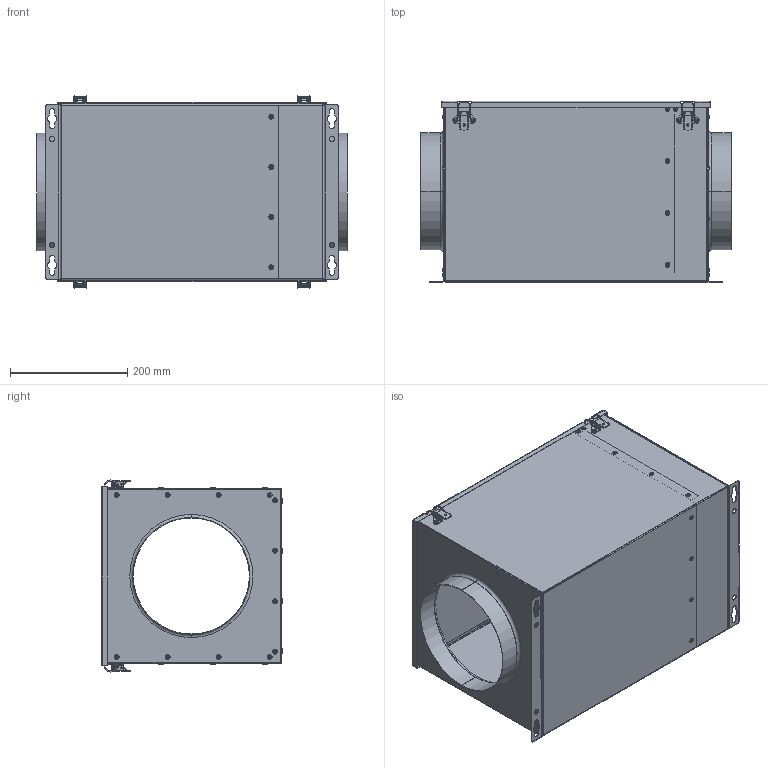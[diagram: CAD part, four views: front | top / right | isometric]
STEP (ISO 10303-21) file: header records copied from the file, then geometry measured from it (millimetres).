
FILE_DESCRIPTION (( 'STEP AP203' ), '1' );
FILE_NAME ('112840-01_FT200_step.step', '2020-08-26T08:35:26', ( '' ), ( '' ), 'SwSTEP 2.0', 'SolidWorks 2017', '' );
FILE_SCHEMA (( 'CONFIG_CONTROL_DESIGN' ));
Length unit declared in the file: millimetre
Products named in the file (1): 112840-01_FT200_step
Bounding box: 530 x 309.3 x 327.58 mm (x, y, z)
Surface area: 1467790 mm2 (no closed solid volume)
Topology: 0 solids, 101 shells, 857 faces, 2605 edges, 1749 vertices
Faces by surface type: cylinder 404, plane 213, torus 148, bspline 92
Entity records: 31417 total; most frequent: CARTESIAN_POINT 7488, DIRECTION 5566, ORIENTED_EDGE 4232, EDGE_CURVE 2605, AXIS2_PLACEMENT_3D 2267, VERTEX_POINT 1749, CIRCLE 1501, EDGE_LOOP 1037
